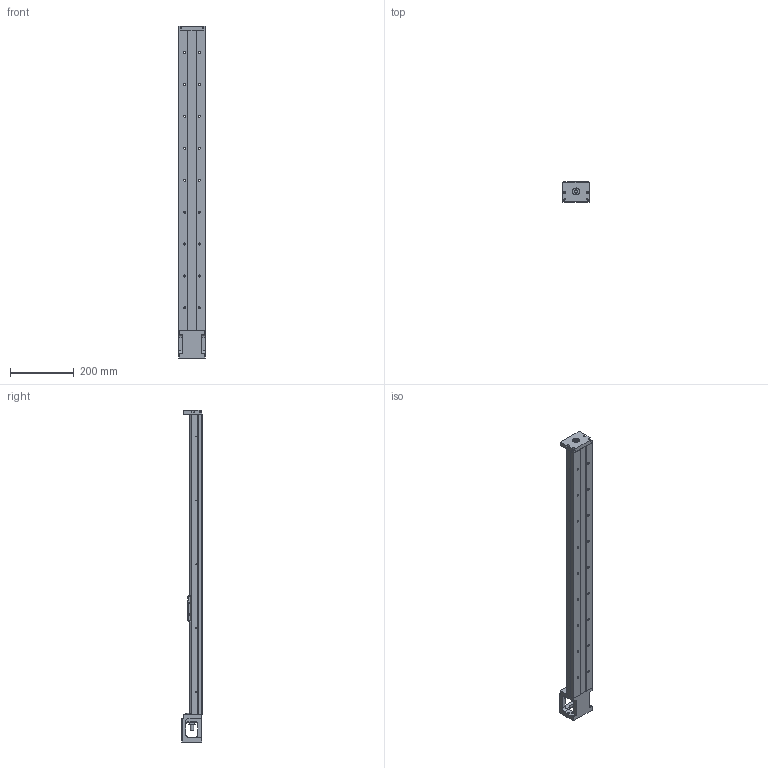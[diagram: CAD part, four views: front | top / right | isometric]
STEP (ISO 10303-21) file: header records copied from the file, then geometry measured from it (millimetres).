
FILE_DESCRIPTION(/* description */ (''),/* implementation_level */ '2;1');
FILE_NAME(/* name */ 'KP46S-940-D.stp',/* time_stamp */ '2020-06-05T10:47:55+08:00',/* author */ (''),/* organization */ (''),/* preprocessor_version */ 'ST-DEVELOPER v14',/* originating_system */ 'SIEMENS PLM Software NX 8.0',/* authorisation */ '');
FILE_SCHEMA (('AUTOMOTIVE_DESIGN { 1 0 10303 214 3 1 1 1 }'));
Length unit declared in the file: millimetre
Products named in the file (1): model1
Bounding box: 86 x 64 x 1040 mm (x, y, z)
Volume: 1972370 mm3; surface area: 408444.9 mm2
Topology: 5 solids, 16 shells, 657 faces, 1747 edges, 1151 vertices
Faces by surface type: plane 288, cylinder 246, cone 62, bspline 53, torus 8
Full cylindrical faces by diameter (mm): 2 x2, 2.11 x2, 2.15 x10, 2.42 x6, 3 x4, 3.2 x4, 3.3 x8, 3.4 x4, 4 x2, 4.2 x4, 4.5 x8, 5 x6, 6 x8, 6.35 x2, 6.6 x18, 6.7 x2, 8.7 x4, 9.6 x1, 10 x4, 11 x18, 12 x1, 14.95 x2, 15 x1, 16 x2, 22 x3, 27.5 x1, 44 x1, 50 x1
Entity records: 30509 total; most frequent: CARTESIAN_POINT 13106, ORIENTED_EDGE 2966, DIRECTION 2834, EDGE_CURVE 1483, AXIS2_PLACEMENT_3D 1074, VERTEX_POINT 1072, EDGE_LOOP 941, LINE 686
